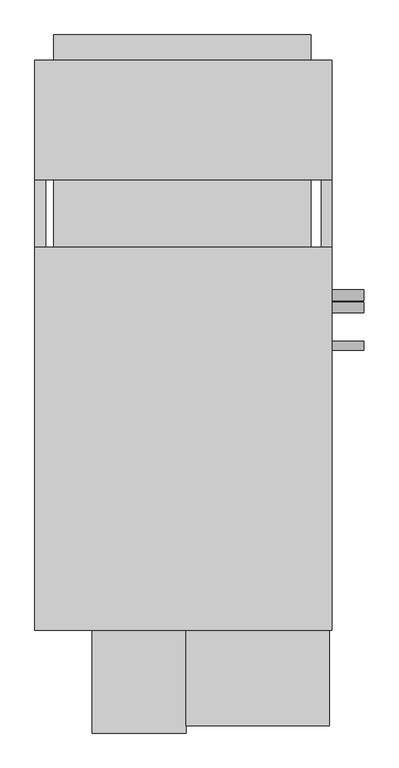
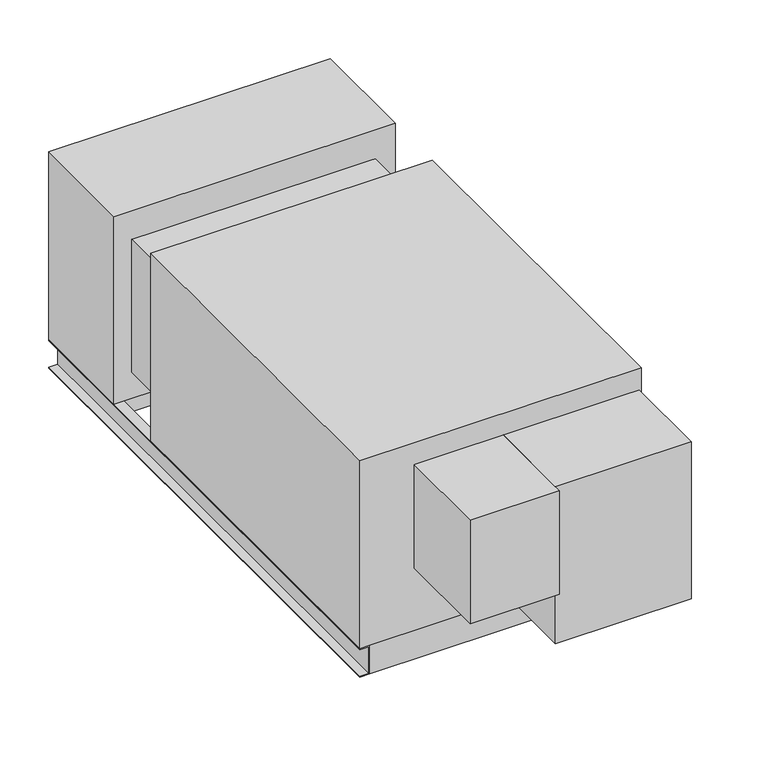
"""IFC4 building model written with IfcOpenShell, lengths in millimetres: proxy geometry, Horizontal_Direct_Drive_Blower_Coil_Unit_-_42DHA_-_CARRIER_-_2-Pipe_Cool-EHeat_NFilterR_W-MixingBox_RH_2022 : Size 06 - 460v/60Hz/3Ph - 8 Row 6.0kW LH."""

from ifc_helpers import new_model, si_unit, point, frame, frame_2d, origin, place, context, project, spatial, polyline, circle_curve, trimmed, segment, composite_curve, outline, extrude, source, transform, mapped, element, save


def mechanical_equipment_f30141e5(model_context):
    return source(origin(), model_context, "Body", "SweptSolid", [
        extrude(outline(polyline([(-406.4, 837.565), (-406.4, 685.165), (-1022.35, 685.165), (-1022.35, 837.565), (-406.4, 837.565)])), frame((0.0, 0.0, -562.61), z_axis=(0.0, 0.0, 1.0), x_axis=(1.0, 0.0, 0.0)), (0.0, 0.0, 1.0), 60.96),
        extrude(outline(polyline([(-1022.35, 1000.125), (-406.4, 1000.125), (-406.4, 939.165), (-1022.35, 939.165), (-1022.35, 1000.125)])), frame((0.0, 0.0, -228.6), z_axis=(0.0, 0.0, 1.0), x_axis=(1.0, 0.0, 0.0)), (0.0, 0.0, 1.0), 152.4),
        extrude(outline(polyline([(-355.6, 939.165), (-355.6, 654.05), (-1066.8, 654.05), (-1066.8, 939.165), (-355.6, 939.165)])), frame((0.0, 0.0, -501.65), z_axis=(0.0, 0.0, 1.0), x_axis=(1.0, 0.0, 0.0)), (0.0, 0.0, 1.0), 501.65),
        extrude(outline(polyline([(-381.0, -396.875), (-381.0, -422.275), (-1041.4, -422.275), (-1041.4, -396.875), (-381.0, -396.875)])), frame((0.0, 0.0, -577.85), z_axis=(0.0, 0.0, 1.0), x_axis=(1.0, 0.0, 0.0)), (0.0, 0.0, 1.0), 76.2),
        extrude(outline(polyline([(-381.0, 939.165), (-381.0, 913.765), (-1041.4, 913.765), (-1041.4, 939.165), (-381.0, 939.165)])), frame((0.0, 0.0, -577.85), z_axis=(0.0, 0.0, 1.0), x_axis=(1.0, 0.0, 0.0)), (0.0, 0.0, 1.0), 76.2),
        extrude(outline(polyline([(-501.65, -1041.4), (-501.65, -1066.8), (-504.825, -1066.8), (-504.825, -1044.575), (-574.675, -1044.575), (-574.675, -1066.8), (-577.85, -1066.8), (-577.85, -1041.4), (-501.65, -1041.4)])), frame((0.0, -422.275, 0.0), z_axis=(0.0, 1.0, 0.0), x_axis=(0.0, 0.0, 1.0)), (0.0, 0.0, 1.0), 1361.44),
        extrude(outline(polyline([(-501.65, -381.0), (-577.85, -381.0), (-577.85, -355.6), (-574.675, -355.6), (-574.675, -377.825), (-504.825, -377.825), (-504.825, -355.6), (-501.65, -355.6), (-501.65, -381.0)])), frame((0.0, -422.275, 0.0), z_axis=(0.0, 1.0, 0.0), x_axis=(0.0, 0.0, 1.0)), (0.0, 0.0, 1.0), 1361.44),
        extrude(outline(composite_curve([segment(trimmed(circle_curve(frame_2d((377.825, -177.8)), 12.7), [point((390.525, -177.8))], [point((365.125, -177.8))], False, "CARTESIAN"), True, "CONTINUOUS"), segment(trimmed(circle_curve(frame_2d((377.825, -177.8)), 12.7), [point((365.125, -177.8))], [point((390.525, -177.8))], False, "CARTESIAN"), True, "CONTINUOUS")], self_intersect=False)), frame((-355.6, 0.0, 0.0), z_axis=(1.0, 0.0, 0.0), x_axis=(0.0, 1.0, 0.0)), (0.0, 0.0, 1.0), 76.2),
        extrude(outline(composite_curve([segment(trimmed(circle_curve(frame_2d((348.9715397, -374.65)), 12.7), [point((361.6715397, -374.65))], [point((336.2715397, -374.65))], False, "CARTESIAN"), True, "CONTINUOUS"), segment(trimmed(circle_curve(frame_2d((348.9715397, -374.65)), 12.7), [point((336.2715397, -374.65))], [point((361.6715397, -374.65))], False, "CARTESIAN"), True, "CONTINUOUS")], self_intersect=False)), frame((-355.6, 0.0, 0.0), z_axis=(1.0, 0.0, 0.0), x_axis=(0.0, 1.0, 0.0)), (0.0, 0.0, 1.0), 76.2),
        extrude(outline(composite_curve([segment(trimmed(circle_curve(frame_2d((257.175, -457.2)), 11.1125), [point((268.2875, -457.2))], [point((246.0625, -457.2))], False, "CARTESIAN"), True, "CONTINUOUS"), segment(trimmed(circle_curve(frame_2d((257.175, -457.2)), 11.1125), [point((246.0625, -457.2))], [point((268.2875, -457.2))], False, "CARTESIAN"), True, "CONTINUOUS")], self_intersect=False)), frame((-355.6, 0.0, 0.0), z_axis=(1.0, 0.0, 0.0), x_axis=(0.0, 1.0, 0.0)), (0.0, 0.0, 1.0), 76.2),
        extrude(outline(polyline([(-355.6, 492.125), (-355.6, -422.275), (-1066.8, -422.275), (-1066.8, 492.125), (-355.6, 492.125)])), frame((0.0, 0.0, -501.65), z_axis=(0.0, 0.0, 1.0), x_axis=(1.0, 0.0, 0.0)), (0.0, 0.0, 1.0), 501.65),
        extrude(outline(polyline([(-361.95, -650.875), (-704.85, -650.875), (-704.85, -422.275), (-361.95, -422.275), (-361.95, -650.875)])), frame((0.0, 0.0, -476.25), z_axis=(0.0, 0.0, 1.0), x_axis=(1.0, 0.0, 0.0)), (0.0, 0.0, 1.0), 419.1),
        extrude(outline(polyline([(-1022.35, 654.05), (-406.4, 654.05), (-406.4, 492.125), (-1022.35, 492.125), (-1022.35, 654.05)])), frame((0.0, 0.0, -431.8), z_axis=(0.0, 0.0, 1.0), x_axis=(1.0, 0.0, 0.0)), (0.0, 0.0, 1.0), 355.6),
        extrude(outline(polyline([(-704.85, -668.3375), (-930.275, -668.3375), (-930.275, -422.275), (-704.85, -422.275), (-704.85, -668.3375)])), frame((0.0, 0.0, -333.375), z_axis=(0.0, 0.0, 1.0), x_axis=(1.0, 0.0, 0.0)), (0.0, 0.0, 1.0), 276.225),
    ])


if __name__ == "__main__":
    model = new_model("IFC4")
    model_context = context("Model", 3, world=origin())
    ifc_project = project(units=[si_unit("LENGTHUNIT", "METRE", prefix="MILLI")], contexts=[model_context])
    site = spatial("IfcSite", under=ifc_project)
    building = spatial("IfcBuilding", under=site)
    placement = place(None, origin())
    mechanical_equipment_shape = mechanical_equipment_f30141e5(model_context)
    element("IfcBuildingElementProxy", 1, Name="Horizontal_Direct_Drive_Blower_Coil_Unit_-_42DHA_-_CARRIER_-_2-Pipe_Cool-EHeat_NFilterR_W-MixingBox_RH_2022 : Size 06 - 460v/60Hz/3Ph - 8 Row 6.0kW LH", ObjectType="Horizontal_Direct_Drive_Blower_Coil_Unit_-_42DHA_-_CARRIER_-_2-Pipe_Cool-EHeat_NFilterR_W-MixingBox_RH_2022 : Size 06 - 460v/60Hz/3Ph - 8 Row 6.0kW LH", at=placement, inside=building, context=model_context, shape_type="MappedRepresentation", body=[
        mapped(mechanical_equipment_shape, transform((0.0, 0.0, 0.0), x_axis=(1.0, 0.0, 0.0), y_axis=(0.0, 1.0, 0.0), z_axis=(0.0, 0.0, 1.0))),
    ])
    save(model, "model.ifc")
